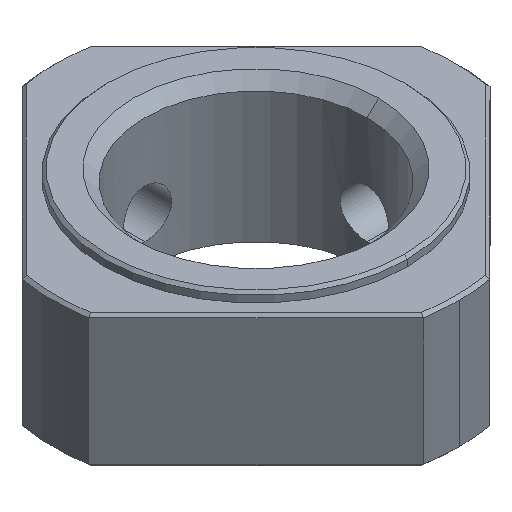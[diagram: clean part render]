
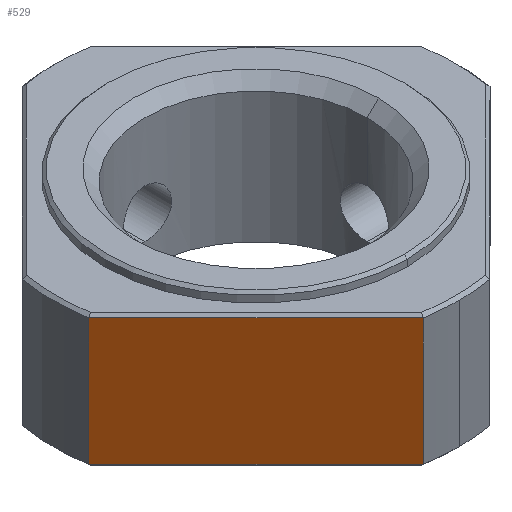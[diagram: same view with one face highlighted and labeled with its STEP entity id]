
A CAD part, isometric view. The second image highlights one B-rep face of the part: STEP entity #529.
In plain terms, the highlighted planar face has unit normal (-0.707, -0.707, 0).
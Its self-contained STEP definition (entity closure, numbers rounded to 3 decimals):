
#79 = ORIENTED_EDGE ( 'NONE', *, *, #575, .T. ) ;
#80 = ORIENTED_EDGE ( 'NONE', *, *, #636, .T. ) ;
#81 = ORIENTED_EDGE ( 'NONE', *, *, #641, .T. ) ;
#82 = ORIENTED_EDGE ( 'NONE', *, *, #642, .T. ) ;
#170 = VECTOR ( 'NONE', #384, 1000. ) ;
#172 = VECTOR ( 'NONE', #393, 1000. ) ;
#173 = VECTOR ( 'NONE', #417, 1000. ) ;
#303 = VECTOR ( 'NONE', #1482, 1000. ) ;
#384 = DIRECTION ( 'NONE',  ( 0.707, -0.707, 0. ) ) ;
#393 = DIRECTION ( 'NONE',  ( -0.707, 0.707, 0. ) ) ;
#394 = CARTESIAN_POINT ( 'NONE',  ( -21.206, -3.543, 13.7 ) ) ;
#398 = LINE ( 'NONE', #394, #172 ) ;
#417 = DIRECTION ( 'NONE',  ( 0., 0., -1. ) ) ;
#418 = CARTESIAN_POINT ( 'NONE',  ( -21.206, -3.543, 41.677 ) ) ;
#442 = LINE ( 'NONE', #418, #173 ) ;
#447 = CARTESIAN_POINT ( 'NONE',  ( -3.543, -21.206, 0.3 ) ) ;
#448 = LINE ( 'NONE', #447, #170 ) ;
#529 = ADVANCED_FACE ( 'NONE', ( #693 ), #1739, .T. ) ;
#575 = EDGE_CURVE ( 'NONE', #1184, #1177, #1586, .T. ) ;
#636 = EDGE_CURVE ( 'NONE', #1077, #1097, #442, .T. ) ;
#641 = EDGE_CURVE ( 'NONE', #1097, #1184, #448, .T. ) ;
#642 = EDGE_CURVE ( 'NONE', #1177, #1077, #398, .T. ) ;
#693 = FACE_OUTER_BOUND ( 'NONE', #1154, .T. ) ;
#720 = AXIS2_PLACEMENT_3D ( 'NONE', #1722, #1724, #1725 ) ;
#804 = CARTESIAN_POINT ( 'NONE',  ( -3.543, -21.206, 0.3 ) ) ;
#811 = CARTESIAN_POINT ( 'NONE',  ( -3.543, -21.206, 13.7 ) ) ;
#825 = CARTESIAN_POINT ( 'NONE',  ( -21.206, -3.543, 0.3 ) ) ;
#830 = CARTESIAN_POINT ( 'NONE',  ( -21.206, -3.543, 13.7 ) ) ;
#1077 = VERTEX_POINT ( 'NONE', #830 ) ;
#1097 = VERTEX_POINT ( 'NONE', #825 ) ;
#1154 = EDGE_LOOP ( 'NONE', ( #80, #81, #79, #82 ) ) ;
#1177 = VERTEX_POINT ( 'NONE', #811 ) ;
#1184 = VERTEX_POINT ( 'NONE', #804 ) ;
#1482 = DIRECTION ( 'NONE',  ( 0., 0., 1. ) ) ;
#1586 = LINE ( 'NONE', #1640, #303 ) ;
#1640 = CARTESIAN_POINT ( 'NONE',  ( -3.543, -21.206, 41.677 ) ) ;
#1722 = CARTESIAN_POINT ( 'NONE',  ( 0., -24.749, 15. ) ) ;
#1724 = DIRECTION ( 'NONE',  ( -0.707, -0.707, 0. ) ) ;
#1725 = DIRECTION ( 'NONE',  ( 0.707, -0.707, 0. ) ) ;
#1739 = PLANE ( 'NONE',  #720 ) ;
